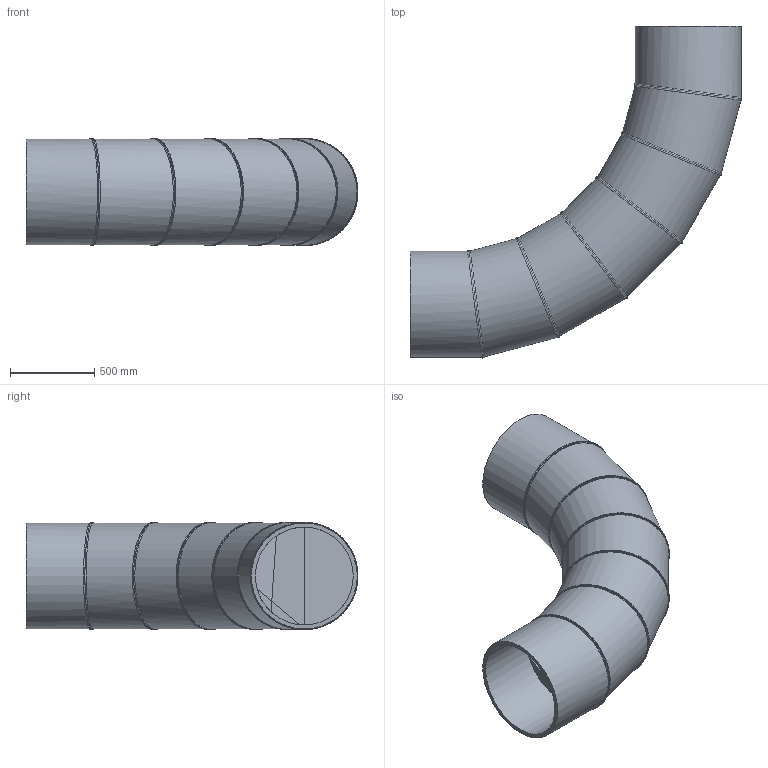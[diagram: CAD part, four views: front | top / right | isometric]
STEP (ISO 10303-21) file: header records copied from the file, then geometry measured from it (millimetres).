
FILE_DESCRIPTION(/* description */ ('Unknown'),/* implementation_level */ '2;1');
FILE_NAME(/* name */ 'Curva 90° a settore DE630 SDR26',/* time_stamp */ '2022-07-27T09:55:31+02:00',/* author */ ('Unknown'),/* organization */ ('Unknown'),/* preprocessor_version */ 'ST-DEVELOPER v18.102',/* originating_system */ 'Solid Edge',/* authorisation */ 'Unknown');
FILE_SCHEMA (('AUTOMOTIVE_DESIGN {1 0 10303 214 3 1 1}'));
Length unit declared in the file: millimetre
Products named in the file (3): Curva 90° a settore DE630 SDR26; Tubo x Gomito 90° DE630 SDR26 - 2; Tubo x Gomito 90° DE630 SDR26 - 1
Assembly tree (7 placements, depth 2):
  Curva 90° a settore DE630 SDR26
    Tubo x Gomito 90° DE630 SDR26 - 2  x5
    Tubo x Gomito 90° DE630 SDR26 - 1  x2
Bounding box: 1973.35 x 1973.35 x 637.99 mm (x, y, z)
Volume: 124355385.5 mm3; surface area: 11028242.6 mm2
Topology: 7 solids, 7 shells, 64 faces, 143 edges, 93 vertices
Faces by surface type: cylinder 38, plane 14, bspline 12
Full cylindrical faces by diameter (mm): 581.8 x7, 630 x7
Entity records: 3446 total; most frequent: CARTESIAN_POINT 3023, DIRECTION 78, ORIENTED_EDGE 52, AXIS2_PLACEMENT_3D 39, EDGE_LOOP 28, FACE_BOUND 28, EDGE_CURVE 26, VERTEX_POINT 20
